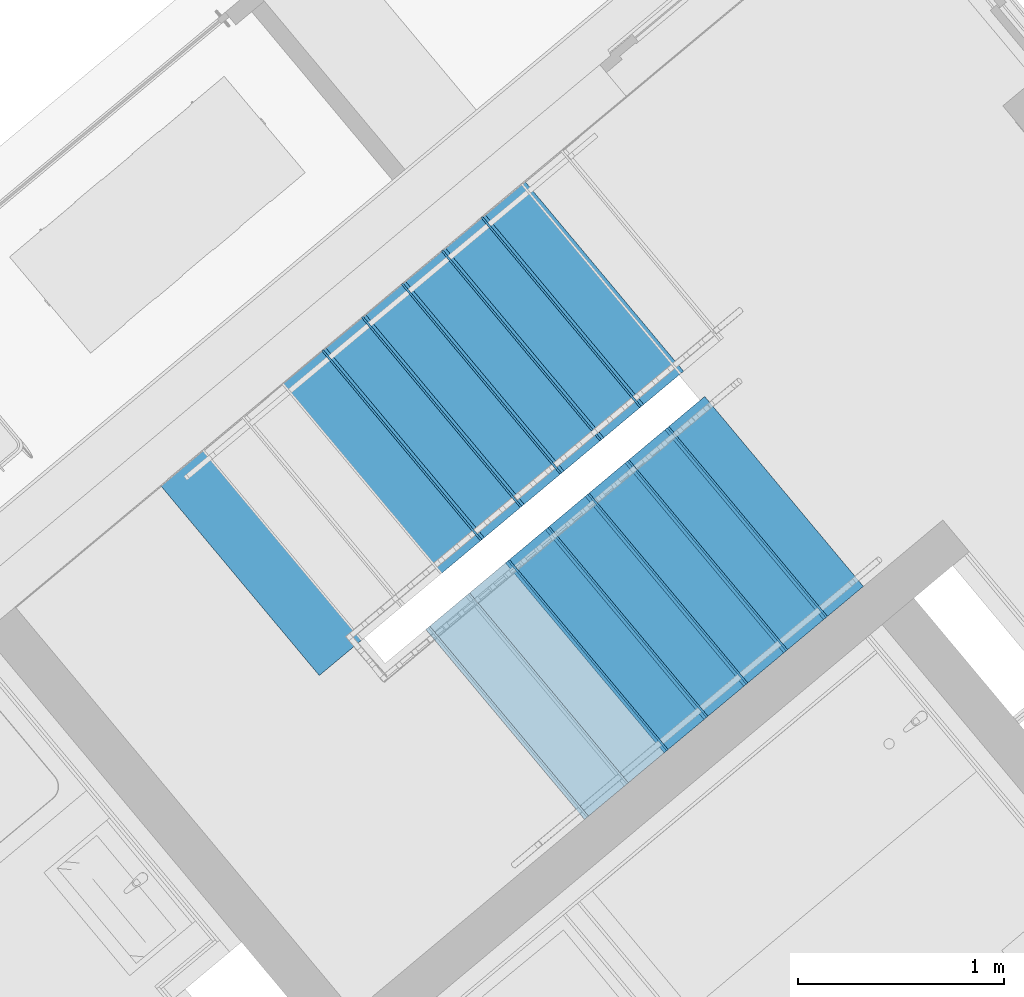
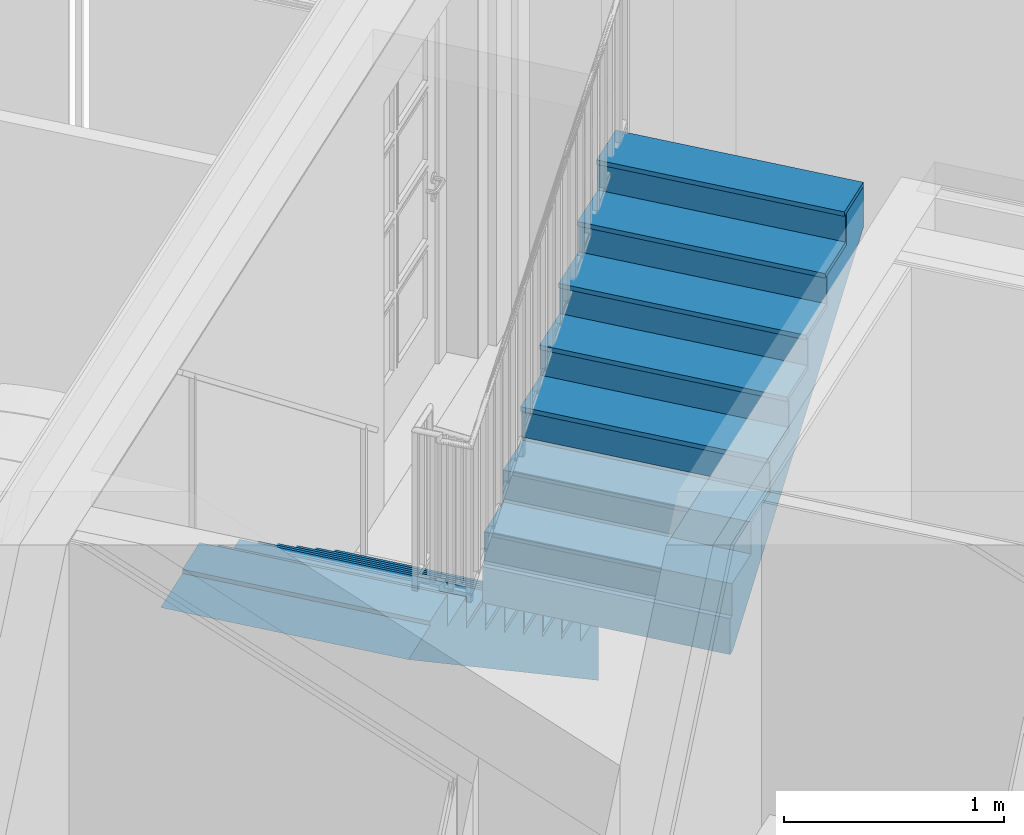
# One storey, part 35 of 75: 23 building element parts, 1 element without a shape of its own.
"""IFC4 building model written with IfcOpenShell, lengths in metres."""

from ifc_helpers import new_model, entity, si_unit, converted_unit, derived_unit, direction, frame, origin_with_axes, place, context, subcontext, project, spatial, polygons, material, type_object, element, aggregate, save


model = new_model("IFC4")

# Units and contexts
model_context = context("Model", 3, precision=1e-05, world=origin_with_axes(), true_north=direction((0.0, 1.0)))
body_context = subcontext(model_context, "Body", "Model", "MODEL_VIEW")
ifc_project = project(units=[si_unit("LENGTHUNIT", "METRE"), si_unit("AREAUNIT", "SQUARE_METRE"), si_unit("VOLUMEUNIT", "CUBIC_METRE"), converted_unit("PLANEANGLEUNIT", "DEGREE", entity("IfcPlaneAngleMeasure", 0.0174532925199), si_unit("PLANEANGLEUNIT", "RADIAN"), dimensions=[0, 0, 0, 0, 0, 0, 0]), converted_unit("TIMEUNIT", "Year", entity("IfcTimeMeasure", 31556926.0), si_unit("TIMEUNIT", "SECOND"), dimensions=[0, 0, 1, 0, 0, 0, 0]), si_unit("MASSUNIT", "GRAM", prefix="KILO"), si_unit("THERMODYNAMICTEMPERATUREUNIT", "DEGREE_CELSIUS"), si_unit("LUMINOUSINTENSITYUNIT", "LUMEN"), si_unit("ENERGYUNIT", "JOULE", prefix="MEGA"), derived_unit("THERMALCONDUCTANCEUNIT", [(si_unit("POWERUNIT", "WATT"), 1), (si_unit("LENGTHUNIT", "METRE"), -1), (si_unit("THERMODYNAMICTEMPERATUREUNIT", "KELVIN"), -1)]), derived_unit("SPECIFICHEATCAPACITYUNIT", [(si_unit("ENERGYUNIT", "JOULE"), 1), (si_unit("MASSUNIT", "GRAM", prefix="KILO"), -1), (si_unit("THERMODYNAMICTEMPERATUREUNIT", "KELVIN"), -1)]), derived_unit("MASSDENSITYUNIT", [(si_unit("MASSUNIT", "GRAM", prefix="KILO"), 1), (si_unit("VOLUMEUNIT", "CUBIC_METRE"), -1)])], contexts=[model_context])

# Site, building, storey, space
site_placement = place(None, frame((-0.00153261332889, -0.00661245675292, 0.0), z_axis=(0.0, 0.0, 1.0), x_axis=(1.0, 0.0, 0.0)))
site = spatial("IfcSite", under=ifc_project, at=site_placement, Name="Gelände", CompositionType="ELEMENT")
building_placement = place(site_placement, origin_with_axes())
building = spatial("IfcBuilding", under=site, at=building_placement, Name="Gebäude", CompositionType="ELEMENT")
storey_placement = place(building_placement, frame((0.0, 0.0, -0.22), z_axis=(0.0, 0.0, 1.0), x_axis=(1.0, 0.0, 0.0)))
storey = spatial("IfcBuildingStorey", under=building, at=storey_placement, Name="EG", CompositionType="ELEMENT", Elevation=-0.22)
space_placement = place(storey_placement, frame((0.257887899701, 22.6119986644, 0.22), z_axis=(0.0, 0.0, 1.0), x_axis=(-0.641204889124, 0.767369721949, 0.0)))
space = spatial("IfcSpace", under=storey, at=space_placement, CompositionType="ELEMENT", PredefinedType="NOTDEFINED")

# Stair, building element parts
stair_type = type_object("IfcStairType", Name="Treppentyp", PredefinedType="NOTDEFINED")
stair_placement = place(space_placement, frame((2.55982666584, -0.536119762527, -0.17), z_axis=(0.0, 0.0, 1.0), x_axis=(-0.641204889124, -0.767369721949, 0.0)))
stair = element("IfcStair", 1, at=stair_placement, inside=space, type_object=stair_type, Name="Treppe - 001", PredefinedType="NOTDEFINED")
ifc_material_1 = material(Name="Stahlbeton Decke")
building_element_part_1_placement = place(stair_placement, origin_with_axes())
building_element_part_1 = element("IfcBuildingElementPart", 2, at=building_element_part_1_placement, material=ifc_material_1, Name="Stahlbeton Decke", PredefinedType="NOTDEFINED", context=body_context, shape_type="Tessellation", body=[
    polygons([(-1.93419043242, -1.61603796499, 1.54558823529), (-1.16478618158, -2.53691636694, 1.54558823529), (-1.16478615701, -2.53691634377, 1.56852941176), (-1.93419045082, -1.61603794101, 1.56852941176), (-2.15516351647, -1.80066346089, 1.54558823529), (-1.38575924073, -2.72154184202, 1.54558823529), (-1.16478618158, -2.53691636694, 1.34302096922), (-1.10040387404, -2.48312422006, 1.28400133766), (-1.03602159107, -2.42933209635, 1.22498172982), (-0.971639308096, -2.37553997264, 1.16596212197), (-0.907257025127, -2.32174784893, 1.10694251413), (-0.842874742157, -2.26795572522, 1.04792290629), (-0.778492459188, -2.21416360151, 0.988903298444), (-0.714110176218, -2.1603714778, 0.929883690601), (-0.649727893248, -2.1065793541, 0.870864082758), (-0.585345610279, -2.05278723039, 0.811844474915), (-0.520963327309, -1.99899510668, 0.752824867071), (-0.45658104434, -1.94520298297, 0.693805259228), (-0.39219876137, -1.89141085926, 0.634785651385), (-0.3278164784, -1.83761873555, 0.575766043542), (-0.263434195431, -1.78382661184, 0.516746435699), (-0.199051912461, -1.73003448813, 0.457726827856), (-0.134669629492, -1.67624236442, 0.398707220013), (-0.0702873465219, -1.62245024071, 0.339687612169), (-0.00590506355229, -1.568658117, 0.280668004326), (0.0584772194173, -1.51486599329, 0.221648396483), (0.122859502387, -1.46107386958, 0.16262878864), (0.187241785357, -1.40728174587, 0.103609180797), (0.251624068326, -1.35348962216, 0.0445895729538), (0.316006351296, -1.29969749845, -0.0144300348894), (0.380388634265, -1.24590537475, -0.0734496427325), (0.444770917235, -1.19211325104, -0.132469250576), (0.509153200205, -1.13832112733, -0.191488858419), (0.54283953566, -1.11017581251, -0.222369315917), (0.54283953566, -1.11017581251, 0.152058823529), (0.361126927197, -1.26199874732, 0.152058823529), (0.361126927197, -1.26199874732, 0.329117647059), (0.167980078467, -1.42337511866, 0.329117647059), (0.167980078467, -1.42337511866, 0.506176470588), (-0.0251667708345, -1.58475148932, 0.506176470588), (-0.0251667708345, -1.58475148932, 0.683235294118), (-0.218313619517, -1.74612786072, 0.683235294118), (-0.218313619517, -1.74612786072, 0.860294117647), (-0.411460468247, -1.90750423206, 0.860294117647), (-0.411460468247, -1.90750423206, 1.03735294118), (-0.604607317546, -2.06888060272, 1.03735294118), (-0.604607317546, -2.06888060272, 1.21441176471), (-0.797754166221, -2.23025697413, 1.21441176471), (-0.797754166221, -2.23025697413, 1.39147058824), (-0.990901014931, -2.3916333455, 1.39147058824), (-0.990901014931, -2.3916333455, 1.56852941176), (-1.7603053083, -1.47075494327, 1.56852941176), (-1.7603053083, -1.47075494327, 1.39147058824), (-1.56715845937, -1.30937857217, 1.39147058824), (-1.56715845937, -1.30937857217, 1.21441176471), (-1.37401161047, -1.14800220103, 1.21441176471), (-1.37401161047, -1.14800220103, 1.03735294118), (-1.18086476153, -0.986625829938, 1.03735294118), (-1.18086476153, -0.986625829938, 0.860294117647), (-0.987717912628, -0.825249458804, 0.860294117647), (-0.987717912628, -0.825249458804, 0.683235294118), (-0.794571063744, -0.663873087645, 0.683235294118), (-0.794571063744, -0.663873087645, 0.506176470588), (-0.601424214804, -0.502496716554, 0.506176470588), (-0.601424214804, -0.502496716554, 0.329117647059), (-0.408277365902, -0.341120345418, 0.329117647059), (-0.408277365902, -0.341120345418, 0.152058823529), (-0.22656475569, -0.189297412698, 0.152058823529), (-0.22656475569, -0.189297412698, -0.222369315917), (-0.260251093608, -0.217442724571, -0.191488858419), (-0.324633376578, -0.27123484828, -0.132469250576), (-0.389015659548, -0.32502697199, -0.0734496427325), (-0.453397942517, -0.378819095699, -0.0144300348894), (-0.517780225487, -0.432611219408, 0.0445895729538), (-0.582162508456, -0.486403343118, 0.103609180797), (-0.646544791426, -0.540195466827, 0.16262878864), (-0.710927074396, -0.593987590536, 0.221648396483), (-0.775309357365, -0.647779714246, 0.280668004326), (-0.839691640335, -0.701571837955, 0.339687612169), (-0.904073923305, -0.755363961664, 0.398707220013), (-0.968456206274, -0.809156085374, 0.457726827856), (-1.03283848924, -0.862948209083, 0.516746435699), (-1.09722077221, -0.916740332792, 0.575766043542), (-1.16160305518, -0.970532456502, 0.634785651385), (-1.22598533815, -1.02432458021, 0.693805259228), (-1.29036762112, -1.07811670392, 0.752824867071), (-1.35474990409, -1.13190882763, 0.811844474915), (-1.41913218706, -1.18570095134, 0.870864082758), (-1.48351447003, -1.23949307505, 0.929883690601), (-1.547896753, -1.29328519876, 0.988903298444), (-1.61227903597, -1.34707732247, 1.04792290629), (-1.67666131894, -1.40086944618, 1.10694251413), (-1.74104360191, -1.45466156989, 1.16596212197), (-1.80542588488, -1.5084536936, 1.22498172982), (-1.86980816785, -1.5622458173, 1.28400133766), (-1.93419043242, -1.61603796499, 1.34302094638)], [[[1, 2, 3, 4]], [[2, 1, 5, 6]], [[7, 8, 9, 10, 11, 12, 13, 14, 15, 16, 17, 18, 19, 20, 21, 22, 23, 24, 25, 26, 27, 28, 29, 30, 31, 32, 33, 34, 35, 36, 37, 38, 39, 40, 41, 42, 43, 44, 45, 46, 47, 48, 49, 50, 51, 3, 2, 6]], [[52, 4, 3, 51]], [[1, 4, 52, 53, 54, 55, 56, 57, 58, 59, 60, 61, 62, 63, 64, 65, 66, 67, 68, 69, 70, 71, 72, 73, 74, 75, 76, 77, 78, 79, 80, 81, 82, 83, 84, 85, 86, 87, 88, 89, 90, 91, 92, 93, 94, 95, 96, 5]], [[96, 95, 8, 7, 6, 5]], [[95, 94, 9, 8]], [[94, 93, 10, 9]], [[93, 92, 11, 10]], [[92, 91, 12, 11]], [[91, 90, 13, 12]], [[90, 89, 14, 13]], [[89, 88, 15, 14]], [[88, 87, 16, 15]], [[87, 86, 17, 16]], [[86, 85, 18, 17]], [[85, 84, 19, 18]], [[84, 83, 20, 19]], [[83, 82, 21, 20]], [[82, 81, 22, 21]], [[81, 80, 23, 22]], [[80, 79, 24, 23]], [[79, 78, 25, 24]], [[78, 77, 26, 25]], [[77, 76, 27, 26]], [[76, 75, 28, 27]], [[75, 74, 29, 28]], [[74, 73, 30, 29]], [[73, 72, 31, 30]], [[72, 71, 32, 31]], [[71, 70, 33, 32]], [[70, 69, 34, 33]], [[69, 68, 35, 34]], [[36, 35, 68, 67]], [[37, 36, 67, 66]], [[65, 38, 37, 66]], [[39, 38, 65, 64]], [[63, 40, 39, 64]], [[41, 40, 63, 62]], [[61, 42, 41, 62]], [[43, 42, 61, 60]], [[59, 44, 43, 60]], [[45, 44, 59, 58]], [[57, 46, 45, 58]], [[47, 46, 57, 56]], [[55, 48, 47, 56]], [[49, 48, 55, 54]], [[53, 50, 49, 54]], [[51, 50, 53, 52]]], closed=True),
])
building_element_part_2_placement = place(stair_placement, origin_with_axes())
building_element_part_2 = element("IfcBuildingElementPart", 3, at=building_element_part_2_placement, material=ifc_material_1, Name="Stahlbeton Decke", PredefinedType="NOTDEFINED", context=body_context, shape_type="Tessellation", body=[
    polygons([(1.12362509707, -2.39695883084, 2.64145231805), (1.18800462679, -2.34316341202, 2.70047192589), (1.25238415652, -2.2893679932, 2.75949153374), (1.25238415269, -2.28936798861, 2.985), (1.0785064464, -2.4346598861, 2.985), (1.0785064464, -2.4346598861, 2.80794117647), (0.885367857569, -2.59604614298, 2.80794117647), (0.885367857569, -2.59604614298, 2.63088235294), (0.692229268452, -2.75743239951, 2.63088235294), (0.692229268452, -2.75743239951, 2.45382352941), (0.499090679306, -2.918818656, 2.45382352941), (0.499090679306, -2.918818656, 2.27676470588), (0.305952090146, -3.08020491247, 2.27676470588), (0.305952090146, -3.08020491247, 2.09970588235), (0.112813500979, -3.24159116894, 2.09970588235), (0.112813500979, -3.24159116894, 1.92264705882), (-0.0803250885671, -3.40297742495, 1.92264705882), (-0.0803250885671, -3.40297742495, 1.74558823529), (-0.0995859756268, -3.41907178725, 1.74558823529), (-0.0995859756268, -3.41907178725, 1.54558823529), (-0.0717609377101, -3.39582123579, 1.54558823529), (-0.0673962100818, -3.39217407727, 1.54958957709), (-0.0352064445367, -3.36527636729, 1.57909938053), (-0.0030166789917, -3.33837865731, 1.60860918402), (0.0291730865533, -3.31148094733, 1.6381189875), (0.0613628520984, -3.28458323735, 1.66762879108), (0.0935526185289, -3.25768552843, 1.69713859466), (0.125742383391, -3.23078781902, 1.72664839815), (0.157932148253, -3.20389010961, 1.75615820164), (0.190121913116, -3.1769924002, 1.78566800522), (0.222311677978, -3.15009469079, 1.8151778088), (0.25450144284, -3.12319698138, 1.8446876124), (0.286691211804, -3.09629927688, 1.874197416), (0.351070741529, -3.04250385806, 1.93321702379), (0.415450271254, -2.98870843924, 1.99223663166), (0.479829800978, -2.93491302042, 2.05125623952), (0.544209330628, -2.88111760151, 2.11027584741), (0.608588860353, -2.82732218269, 2.16929545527), (0.672968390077, -2.77352676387, 2.22831506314), (0.73734791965, -2.71973134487, 2.28733467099), (0.801727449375, -2.66593592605, 2.34635427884), (0.8661069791, -2.61214050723, 2.40537388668), (0.930486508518, -2.55834508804, 2.46439349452), (0.994866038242, -2.50454966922, 2.52341310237), (1.05924556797, -2.4507542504, 2.58243271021), (0.418553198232, -1.42232438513, 2.70047192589), (0.354173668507, -1.47611980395, 2.64145231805), (0.482932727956, -1.36852896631, 2.75949153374), (0.482932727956, -1.36852896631, 2.985), (0.309055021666, -1.51382086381, 2.985), (0.309055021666, -1.51382086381, 2.80794117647), (0.115916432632, -1.67520712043, 2.80794117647), (0.115916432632, -1.67520712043, 2.63088235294), (-0.0772221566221, -1.8365933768, 2.63088235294), (-0.0772221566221, -1.8365933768, 2.45382352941), (-0.270360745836, -1.99797963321, 2.45382352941), (-0.270360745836, -1.99797963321, 2.27676470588), (-0.463499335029, -2.15936588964, 2.27676470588), (-0.463499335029, -2.15936588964, 2.09970588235), (-0.656637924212, -2.32075214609, 2.09970588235), (-0.656637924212, -2.32075214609, 1.92264705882), (-0.849776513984, -2.48213840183, 1.92264705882), (-0.849776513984, -2.48213840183, 1.74558823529), (-0.86903741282, -2.49823277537, 1.74558823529), (-0.869037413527, -2.49823277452, 1.54558823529), (-0.841212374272, -2.47498222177, 1.54558823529), (-0.815129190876, -2.50619720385, 1.54558823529), (-0.482569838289, -2.90418674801, 1.54558823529), (-0.430403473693, -2.96661670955, 1.54558823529), (-0.0978441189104, -3.36460625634, 1.54558823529), (-0.227569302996, -3.13506661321, 1.57909938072), (-0.163189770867, -3.08127119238, 1.63811898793), (-0.0988102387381, -3.02747577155, 1.69713859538), (-0.0344307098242, -2.97368035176, 1.75615820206), (0.0299488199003, -2.91988493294, 1.81517780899), (0.0943283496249, -2.86608951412, 1.87419741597), (-0.418380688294, -2.12166482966, 1.93321702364), (-0.290397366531, -2.40566999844, 1.8741974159), (-0.482760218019, -2.17546024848, 1.87419741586), (-0.35400115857, -2.06786941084, 1.99223663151), (-0.289621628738, -2.01407399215, 2.0512562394), (-0.225242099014, -1.96027857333, 2.11027584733), (-0.160862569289, -1.90648315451, 2.16929545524), (-0.0964830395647, -1.85268773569, 2.22831506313), (-0.0321035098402, -1.79889231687, 2.28733467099), (0.0322760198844, -1.74509689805, 2.34635427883), (0.0966555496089, -1.69130147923, 2.40537388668), (0.161035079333, -1.63750606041, 2.46439349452), (0.225414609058, -1.58371064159, 2.52341310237), (0.289794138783, -1.52991522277, 2.58243271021), (-0.804657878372, -2.44443735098, 1.57909938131), (-0.836847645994, -2.4713350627, 1.54958957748), (-0.514949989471, -2.20235795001, 1.84468761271), (-0.547139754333, -2.22925565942, 1.81517780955), (-0.579329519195, -2.25615336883, 1.78566800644), (-0.611519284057, -2.28305107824, 1.75615820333), (-0.64370904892, -2.30994878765, 1.72664840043), (-0.675898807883, -2.33684650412, 1.69713859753), (-0.708088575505, -2.36374421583, 1.66762879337), (-0.740278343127, -2.39064192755, 1.6381189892), (-0.77246811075, -2.41753963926, 1.60860918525), (-0.612295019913, -2.67464710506, 1.57909938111), (-0.452121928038, -2.93175456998, 1.54958957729), (-0.387742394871, -2.87795914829, 1.60860918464), (-0.323362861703, -2.82416372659, 1.66762879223), (-0.258983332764, -2.77036830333, 1.72664839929), (-0.19460380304, -2.71657288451, 1.78566800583), (-0.130224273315, -2.66277746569, 1.84468761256), (-0.354776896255, -2.45946541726, 1.81517780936), (-0.41915642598, -2.51326083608, 1.75615820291), (-0.483535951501, -2.56705625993, 1.69713859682), (-0.547915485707, -2.62085168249, 1.63811898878)], [[[1, 2, 3, 4, 5, 6, 7, 8, 9, 10, 11, 12, 13, 14, 15, 16, 17, 18, 19, 20, 21, 22, 23, 24, 25, 26, 27, 28, 29, 30, 31, 32, 33, 34, 35, 36, 37, 38, 39, 40, 41, 42, 43, 44, 45]], [[46, 2, 1, 47]], [[48, 3, 2, 46]], [[4, 3, 48, 49]], [[4, 49, 50, 5]], [[50, 51, 6, 5]], [[52, 7, 6, 51]], [[52, 53, 8, 7]], [[54, 9, 8, 53]], [[54, 55, 10, 9]], [[56, 11, 10, 55]], [[56, 57, 12, 11]], [[58, 13, 12, 57]], [[58, 59, 14, 13]], [[60, 15, 14, 59]], [[60, 61, 16, 15]], [[62, 17, 16, 61]], [[62, 63, 18, 17]], [[63, 64, 19, 18]], [[65, 20, 19, 64]], [[21, 20, 65, 66, 67, 68, 69, 70]], [[70, 22, 21]], [[71, 23, 22]], [[71, 24, 23]], [[72, 25, 24]], [[72, 26, 25]], [[73, 27, 26]], [[73, 28, 27]], [[74, 29, 28]], [[74, 30, 29]], [[75, 31, 30]], [[75, 32, 31]], [[76, 33, 32]], [[77, 34, 33, 76, 78, 79]], [[80, 35, 34, 77]], [[81, 36, 35, 80]], [[82, 37, 36, 81]], [[83, 38, 37, 82]], [[84, 39, 38, 83]], [[85, 40, 39, 84]], [[86, 41, 40, 85]], [[87, 42, 41, 86]], [[88, 43, 42, 87]], [[89, 44, 43, 88]], [[90, 45, 44, 89]], [[47, 1, 45, 90]], [[91, 92, 66, 65, 64, 63, 62, 61, 60, 59, 58, 57, 56, 55, 54, 53, 52, 51, 50, 49, 48, 46, 47, 90, 89, 88, 87, 86, 85, 84, 83, 82, 81, 80, 77, 79, 93, 94, 95, 96, 97, 98, 99, 100, 101]], [[67, 66, 92]], [[67, 92, 102, 103, 68]], [[69, 68, 103]], [[103, 71, 22, 70, 69]], [[104, 72, 24, 71]], [[105, 73, 26, 72]], [[106, 74, 28, 73]], [[74, 107, 75, 30]], [[108, 76, 32, 75]], [[108, 78, 76]], [[78, 93, 79]], [[102, 92, 91]], [[109, 94, 93]], [[109, 95, 94]], [[110, 96, 95]], [[110, 97, 96]], [[111, 98, 97]], [[111, 99, 98]], [[112, 100, 99]], [[112, 101, 100]], [[102, 91, 101]], [[103, 102, 71]], [[72, 104, 112]], [[71, 102, 104]], [[73, 105, 111]], [[112, 105, 72]], [[74, 106, 110]], [[73, 111, 106]], [[74, 110, 107]], [[75, 107, 109]], [[109, 108, 75]], [[109, 93, 78, 108]], [[95, 109, 107, 110]], [[111, 97, 110, 106]], [[99, 111, 105, 112]], [[102, 101, 112, 104]]], closed=True),
])
ifc_material_2 = material(Name="BEKLEIDUNG")
building_element_part_3_placement = place(stair_placement, origin_with_axes())
building_element_part_3 = element("IfcBuildingElementPart", 4, at=building_element_part_3_placement, material=ifc_material_2, Name="BEKLEIDUNG", PredefinedType="NOTDEFINED", context=body_context, shape_type="Tessellation", body=[
    polygons([(-0.593673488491, -0.49602089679, 0.506176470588), (-0.601347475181, -0.502432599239, 0.506176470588), (0.168056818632, -1.42331100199, 0.506176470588), (0.175730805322, -1.41689929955, 0.506176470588), (-0.593673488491, -0.49602089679, 0.354117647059), (-0.601347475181, -0.502432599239, 0.354117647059), (0.168056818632, -1.42331100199, 0.354117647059), (0.175730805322, -1.41689929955, 0.354117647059)], [[[1, 2, 3, 4]], [[1, 5, 6, 2]], [[2, 6, 7, 3]], [[4, 3, 7, 8]], [[5, 1, 4, 8]], [[6, 5, 8, 7]]], closed=True),
])
building_element_part_4_placement = place(stair_placement, origin_with_axes())
building_element_part_4 = element("IfcBuildingElementPart", 5, at=building_element_part_4_placement, material=ifc_material_2, Name="BEKLEIDUNG", PredefinedType="NOTDEFINED", context=body_context, shape_type="Tessellation", body=[
    polygons([(-0.7868203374, -0.657397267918, 0.683235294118), (-0.794494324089, -0.663808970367, 0.683235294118), (-0.0250900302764, -1.58468737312, 0.683235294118), (-0.0174160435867, -1.57827567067, 0.683235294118), (-0.7868203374, -0.657397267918, 0.531176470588), (-0.794494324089, -0.663808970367, 0.531176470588), (-0.0250900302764, -1.58468737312, 0.531176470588), (-0.0174160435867, -1.57827567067, 0.531176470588)], [[[1, 2, 3, 4]], [[1, 5, 6, 2]], [[2, 6, 7, 3]], [[4, 3, 7, 8]], [[5, 1, 4, 8]], [[6, 5, 8, 7]]], closed=True),
])
building_element_part_5_placement = place(stair_placement, origin_with_axes())
building_element_part_5 = element("IfcBuildingElementPart", 6, at=building_element_part_5_placement, material=ifc_material_2, Name="BEKLEIDUNG", PredefinedType="NOTDEFINED", context=body_context, shape_type="Tessellation", body=[
    polygons([(-0.979967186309, -0.818773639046, 0.860294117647), (-0.987641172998, -0.825185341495, 0.860294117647), (-0.218236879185, -1.74606374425, 0.860294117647), (-0.210562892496, -1.7396520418, 0.860294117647), (-0.979967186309, -0.818773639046, 0.708235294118), (-0.987641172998, -0.825185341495, 0.708235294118), (-0.218236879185, -1.74606374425, 0.708235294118), (-0.210562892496, -1.7396520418, 0.708235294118)], [[[1, 2, 3, 4]], [[1, 5, 6, 2]], [[2, 6, 7, 3]], [[4, 3, 7, 8]], [[5, 1, 4, 8]], [[6, 5, 8, 7]]], closed=True),
])
building_element_part_6_placement = place(stair_placement, origin_with_axes())
building_element_part_6 = element("IfcBuildingElementPart", 7, at=building_element_part_6_placement, material=ifc_material_2, Name="BEKLEIDUNG", PredefinedType="NOTDEFINED", context=body_context, shape_type="Tessellation", body=[
    polygons([(-1.17311403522, -0.980150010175, 1.03735294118), (-1.18078802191, -0.986561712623, 1.03735294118), (-0.411383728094, -1.90744011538, 1.03735294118), (-0.403709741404, -1.90102841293, 1.03735294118), (-1.17311403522, -0.980150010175, 0.885294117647), (-1.18078802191, -0.986561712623, 0.885294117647), (-0.411383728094, -1.90744011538, 0.885294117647), (-0.403709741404, -1.90102841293, 0.885294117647)], [[[1, 2, 3, 4]], [[1, 5, 6, 2]], [[2, 6, 7, 3]], [[4, 3, 7, 8]], [[5, 1, 4, 8]], [[6, 5, 8, 7]]], closed=True),
])
building_element_part_7_placement = place(stair_placement, origin_with_axes())
building_element_part_7 = element("IfcBuildingElementPart", 8, at=building_element_part_7_placement, material=ifc_material_2, Name="BEKLEIDUNG", PredefinedType="NOTDEFINED", context=body_context, shape_type="Tessellation", body=[
    polygons([(-1.36626088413, -1.1415263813, 1.21441176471), (-1.37393487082, -1.14793808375, 1.21441176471), (-0.604530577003, -2.06881648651, 1.21441176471), (-0.596856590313, -2.06240478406, 1.21441176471), (-1.36626088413, -1.1415263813, 1.06235294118), (-1.37393487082, -1.14793808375, 1.06235294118), (-0.604530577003, -2.06881648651, 1.06235294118), (-0.596856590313, -2.06240478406, 1.06235294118)], [[[1, 2, 3, 4]], [[1, 5, 6, 2]], [[2, 6, 7, 3]], [[4, 3, 7, 8]], [[5, 1, 4, 8]], [[6, 5, 8, 7]]], closed=True),
])
building_element_part_8_placement = place(stair_placement, origin_with_axes())
building_element_part_8 = element("IfcBuildingElementPart", 9, at=building_element_part_8_placement, material=ifc_material_2, Name="BEKLEIDUNG", PredefinedType="NOTDEFINED", context=body_context, shape_type="Tessellation", body=[
    polygons([(0.298201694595, -3.0866811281, 2.27676470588), (0.305875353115, -3.08026903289, 2.27676470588), (-0.463576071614, -2.1594300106, 2.27676470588), (-0.471249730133, -2.1658421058, 2.27676470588), (0.298201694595, -3.0866811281, 2.12470588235), (0.305875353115, -3.08026903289, 2.12470588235), (-0.463576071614, -2.1594300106, 2.12470588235), (-0.471249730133, -2.1658421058, 2.12470588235)], [[[1, 2, 3, 4]], [[1, 5, 6, 2]], [[2, 6, 7, 3]], [[4, 3, 7, 8]], [[5, 1, 4, 8]], [[6, 5, 8, 7]]], closed=True),
])
building_element_part_9_placement = place(stair_placement, origin_with_axes())
building_element_part_9 = element("IfcBuildingElementPart", 10, at=building_element_part_9_placement, material=ifc_material_2, Name="BEKLEIDUNG", PredefinedType="NOTDEFINED", context=body_context, shape_type="Tessellation", body=[
    polygons([(0.491340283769, -2.92529487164, 2.45382352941), (0.499013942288, -2.91888277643, 2.45382352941), (-0.270437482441, -1.99804375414, 2.45382352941), (-0.27811114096, -2.00445584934, 2.45382352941), (0.491340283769, -2.92529487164, 2.30176470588), (0.499013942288, -2.91888277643, 2.30176470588), (-0.270437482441, -1.99804375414, 2.30176470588), (-0.27811114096, -2.00445584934, 2.30176470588)], [[[1, 2, 3, 4]], [[1, 5, 6, 2]], [[2, 6, 7, 3]], [[4, 3, 7, 8]], [[5, 1, 4, 8]], [[6, 5, 8, 7]]], closed=True),
])
building_element_part_10_placement = place(stair_placement, origin_with_axes())
building_element_part_10 = element("IfcBuildingElementPart", 11, at=building_element_part_10_placement, material=ifc_material_2, Name="BEKLEIDUNG", PredefinedType="NOTDEFINED", context=body_context, shape_type="Tessellation", body=[
    polygons([(0.684478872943, -2.76390861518, 2.63088235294), (0.692152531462, -2.75749651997, 2.63088235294), (-0.0772988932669, -1.83665749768, 2.63088235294), (-0.084972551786, -1.84306959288, 2.63088235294), (0.684478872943, -2.76390861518, 2.47882352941), (0.692152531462, -2.75749651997, 2.47882352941), (-0.0772988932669, -1.83665749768, 2.47882352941), (-0.084972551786, -1.84306959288, 2.47882352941)], [[[1, 2, 3, 4]], [[1, 5, 6, 2]], [[2, 6, 7, 3]], [[4, 3, 7, 8]], [[5, 1, 4, 8]], [[6, 5, 8, 7]]], closed=True),
])
building_element_part_11_placement = place(stair_placement, origin_with_axes())
building_element_part_11 = element("IfcBuildingElementPart", 12, at=building_element_part_11_placement, material=ifc_material_2, Name="BEKLEIDUNG", PredefinedType="NOTDEFINED", context=body_context, shape_type="Tessellation", body=[
    polygons([(0.877617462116, -2.60252235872, 2.80794117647), (0.885291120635, -2.59611026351, 2.80794117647), (0.115839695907, -1.67527124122, 2.80794117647), (0.108166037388, -1.68168333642, 2.80794117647), (0.877617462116, -2.60252235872, 2.65588235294), (0.885291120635, -2.59611026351, 2.65588235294), (0.115839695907, -1.67527124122, 2.65588235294), (0.108166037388, -1.68168333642, 2.65588235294)], [[[1, 2, 3, 4]], [[1, 5, 6, 2]], [[2, 6, 7, 3]], [[4, 3, 7, 8]], [[5, 1, 4, 8]], [[6, 5, 8, 7]]], closed=True),
])
building_element_part_12_placement = place(stair_placement, origin_with_axes())
building_element_part_12 = element("IfcBuildingElementPart", 13, at=building_element_part_12_placement, material=ifc_material_2, Name="BEKLEIDUNG", PredefinedType="NOTDEFINED", context=body_context, shape_type="Tessellation", body=[
    polygons([(1.07075605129, -2.44113610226, 2.985), (1.07842970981, -2.43472400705, 2.985), (0.30897828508, -1.51388498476, 2.985), (0.301304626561, -1.52029707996, 2.985), (1.07075605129, -2.44113610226, 2.83294117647), (1.07842970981, -2.43472400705, 2.83294117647), (0.30897828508, -1.51388498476, 2.83294117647), (0.301304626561, -1.52029707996, 2.83294117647)], [[[1, 2, 3, 4]], [[1, 5, 6, 2]], [[2, 6, 7, 3]], [[4, 3, 7, 8]], [[5, 1, 4, 8]], [[6, 5, 8, 7]]], closed=True),
])
building_element_part_13_placement = place(stair_placement, origin_with_axes())
building_element_part_13 = element("IfcBuildingElementPart", 14, at=building_element_part_13_placement, material=ifc_material_2, Name="BEKLEIDUNG", PredefinedType="NOTDEFINED", context=body_context, shape_type="Tessellation", body=[
    polygons([(0.380388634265, -1.24590537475, 0.329117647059), (-0.389015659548, -0.32502697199, 0.329117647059), (-0.389015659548, -0.32502697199, 0.354117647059), (0.380388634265, -1.24590537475, 0.354117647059), (0.168056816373, -1.42331100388, 0.329117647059), (-0.601347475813, -0.502432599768, 0.329117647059), (-0.601347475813, -0.502432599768, 0.354117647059), (0.168056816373, -1.42331100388, 0.354117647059)], [[[1, 2, 3, 4]], [[1, 5, 6, 2]], [[2, 6, 7, 3]], [[4, 3, 7, 8]], [[5, 1, 4, 8]], [[6, 5, 8, 7]]], closed=True),
])
building_element_part_14_placement = place(stair_placement, origin_with_axes())
building_element_part_14 = element("IfcBuildingElementPart", 15, at=building_element_part_14_placement, material=ifc_material_2, Name="BEKLEIDUNG", PredefinedType="NOTDEFINED", context=body_context, shape_type="Tessellation", body=[
    polygons([(0.187241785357, -1.40728174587, 0.506176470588), (-0.582162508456, -0.486403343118, 0.506176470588), (-0.582162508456, -0.486403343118, 0.531176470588), (0.187241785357, -1.40728174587, 0.531176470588), (-0.0250900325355, -1.58468737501, 0.506176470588), (-0.794494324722, -0.663808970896, 0.506176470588), (-0.794494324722, -0.663808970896, 0.531176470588), (-0.0250900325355, -1.58468737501, 0.531176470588)], [[[1, 2, 3, 4]], [[1, 5, 6, 2]], [[2, 6, 7, 3]], [[4, 3, 7, 8]], [[5, 1, 4, 8]], [[6, 5, 8, 7]]], closed=True),
])
building_element_part_15_placement = place(stair_placement, origin_with_axes())
building_element_part_15 = element("IfcBuildingElementPart", 16, at=building_element_part_15_placement, material=ifc_material_2, Name="BEKLEIDUNG", PredefinedType="NOTDEFINED", context=body_context, shape_type="Tessellation", body=[
    polygons([(-0.00590506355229, -1.568658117, 0.683235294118), (-0.775309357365, -0.647779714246, 0.683235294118), (-0.775309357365, -0.647779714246, 0.708235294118), (-0.00590506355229, -1.568658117, 0.708235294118), (-0.218236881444, -1.74606374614, 0.683235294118), (-0.987641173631, -0.825185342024, 0.683235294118), (-0.987641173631, -0.825185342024, 0.708235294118), (-0.218236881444, -1.74606374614, 0.708235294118)], [[[1, 2, 3, 4]], [[1, 5, 6, 2]], [[2, 6, 7, 3]], [[4, 3, 7, 8]], [[5, 1, 4, 8]], [[6, 5, 8, 7]]], closed=True),
])
building_element_part_16_placement = place(stair_placement, origin_with_axes())
building_element_part_16 = element("IfcBuildingElementPart", 17, at=building_element_part_16_placement, material=ifc_material_2, Name="BEKLEIDUNG", PredefinedType="NOTDEFINED", context=body_context, shape_type="Tessellation", body=[
    polygons([(-0.199051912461, -1.73003448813, 0.860294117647), (-0.968456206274, -0.809156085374, 0.860294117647), (-0.968456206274, -0.809156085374, 0.885294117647), (-0.199051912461, -1.73003448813, 0.885294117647), (-0.411383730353, -1.90744011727, 0.860294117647), (-1.18078802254, -0.986561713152, 0.860294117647), (-1.18078802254, -0.986561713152, 0.885294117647), (-0.411383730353, -1.90744011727, 0.885294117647)], [[[1, 2, 3, 4]], [[1, 5, 6, 2]], [[2, 6, 7, 3]], [[4, 3, 7, 8]], [[5, 1, 4, 8]], [[6, 5, 8, 7]]], closed=True),
])
building_element_part_17_placement = place(stair_placement, origin_with_axes())
building_element_part_17 = element("IfcBuildingElementPart", 18, at=building_element_part_17_placement, material=ifc_material_2, Name="BEKLEIDUNG", PredefinedType="NOTDEFINED", context=body_context, shape_type="Tessellation", body=[
    polygons([(-0.39219876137, -1.89141085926, 1.03735294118), (-1.16160305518, -0.970532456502, 1.03735294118), (-1.16160305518, -0.970532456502, 1.06235294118), (-0.39219876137, -1.89141085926, 1.06235294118), (-0.604530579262, -2.06881648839, 1.03735294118), (-1.37393487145, -1.14793808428, 1.03735294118), (-1.37393487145, -1.14793808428, 1.06235294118), (-0.604530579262, -2.06881648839, 1.06235294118)], [[[1, 2, 3, 4]], [[1, 5, 6, 2]], [[2, 6, 7, 3]], [[4, 3, 7, 8]], [[5, 1, 4, 8]], [[6, 5, 8, 7]]], closed=True),
])
building_element_part_18_placement = place(stair_placement, origin_with_axes())
building_element_part_18 = element("IfcBuildingElementPart", 19, at=building_element_part_18_placement, material=ifc_material_2, Name="BEKLEIDUNG", PredefinedType="NOTDEFINED", context=body_context, shape_type="Tessellation", body=[
    polygons([(-0.585345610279, -2.05278723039, 1.21441176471), (-1.35474990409, -1.13190882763, 1.21441176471), (-1.35474990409, -1.13190882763, 1.23941176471), (-0.585345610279, -2.05278723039, 1.23941176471), (-0.797677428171, -2.23019285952, 1.21441176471), (-1.56708172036, -1.30931445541, 1.21441176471), (-1.56708172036, -1.30931445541, 1.23941176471), (-0.797677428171, -2.23019285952, 1.23941176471)], [[[1, 2, 3, 4]], [[1, 5, 6, 2]], [[2, 6, 7, 3]], [[4, 3, 7, 8]], [[5, 1, 4, 8]], [[6, 5, 8, 7]]], closed=True),
])
building_element_part_19_placement = place(stair_placement, origin_with_axes())
building_element_part_19 = element("IfcBuildingElementPart", 20, at=building_element_part_19_placement, material=ifc_material_2, Name="BEKLEIDUNG", PredefinedType="NOTDEFINED", context=body_context, shape_type="Tessellation", body=[
    polygons([(-0.482760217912, -2.17546024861, 2.27676470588), (0.286691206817, -3.09629927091, 2.27676470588), (0.286691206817, -3.09629927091, 2.30176470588), (-0.482760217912, -2.17546024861, 2.30176470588), (-0.270437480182, -1.99804375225, 2.27676470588), (0.499013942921, -2.9188827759, 2.27676470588), (0.499013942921, -2.9188827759, 2.30176470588), (-0.270437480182, -1.99804375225, 2.30176470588)], [[[1, 2, 3, 4]], [[1, 5, 6, 2]], [[2, 6, 7, 3]], [[4, 3, 7, 8]], [[5, 1, 4, 8]], [[6, 5, 8, 7]]], closed=True),
])
building_element_part_20_placement = place(stair_placement, origin_with_axes())
building_element_part_20 = element("IfcBuildingElementPart", 21, at=building_element_part_20_placement, material=ifc_material_2, Name="BEKLEIDUNG", PredefinedType="NOTDEFINED", context=body_context, shape_type="Tessellation", body=[
    polygons([(-0.289621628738, -2.01407399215, 2.45382352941), (0.47982979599, -2.93491301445, 2.45382352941), (0.47982979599, -2.93491301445, 2.47882352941), (-0.289621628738, -2.01407399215, 2.47882352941), (-0.0772988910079, -1.83665749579, 2.45382352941), (0.692152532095, -2.75749651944, 2.45382352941), (0.692152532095, -2.75749651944, 2.47882352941), (-0.0772988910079, -1.83665749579, 2.47882352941)], [[[1, 2, 3, 4]], [[1, 5, 6, 2]], [[2, 6, 7, 3]], [[4, 3, 7, 8]], [[5, 1, 4, 8]], [[6, 5, 8, 7]]], closed=True),
])
building_element_part_21_placement = place(stair_placement, origin_with_axes())
building_element_part_21 = element("IfcBuildingElementPart", 22, at=building_element_part_21_placement, material=ifc_material_2, Name="BEKLEIDUNG", PredefinedType="NOTDEFINED", context=body_context, shape_type="Tessellation", body=[
    polygons([(-0.0964830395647, -1.85268773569, 2.63088235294), (0.672968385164, -2.77352675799, 2.63088235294), (0.672968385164, -2.77352675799, 2.65588235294), (-0.0964830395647, -1.85268773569, 2.65588235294), (0.115839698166, -1.67527123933, 2.63088235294), (0.885291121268, -2.59611026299, 2.63088235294), (0.885291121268, -2.59611026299, 2.65588235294), (0.115839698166, -1.67527123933, 2.65588235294)], [[[1, 2, 3, 4]], [[1, 5, 6, 2]], [[2, 6, 7, 3]], [[4, 3, 7, 8]], [[5, 1, 4, 8]], [[6, 5, 8, 7]]], closed=True),
])
building_element_part_22_placement = place(stair_placement, origin_with_axes())
building_element_part_22 = element("IfcBuildingElementPart", 23, at=building_element_part_22_placement, material=ifc_material_2, Name="BEKLEIDUNG", PredefinedType="NOTDEFINED", context=body_context, shape_type="Tessellation", body=[
    polygons([(0.0966555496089, -1.69130147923, 2.80794117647), (0.866106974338, -2.61214050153, 2.80794117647), (0.866106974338, -2.61214050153, 2.83294117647), (0.0966555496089, -1.69130147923, 2.83294117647), (0.308978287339, -1.51388498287, 2.80794117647), (1.07842971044, -2.43472400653, 2.80794117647), (1.07842971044, -2.43472400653, 2.83294117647), (0.308978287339, -1.51388498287, 2.83294117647)], [[[1, 2, 3, 4]], [[1, 5, 6, 2]], [[2, 6, 7, 3]], [[4, 3, 7, 8]], [[5, 1, 4, 8]], [[6, 5, 8, 7]]], closed=True),
])
building_element_part_23_placement = place(stair_placement, origin_with_axes())
building_element_part_23 = element("IfcBuildingElementPart", 24, at=building_element_part_23_placement, material=ifc_material_2, Name="BEKLEIDUNG", PredefinedType="NOTDEFINED", context=body_context, shape_type="Tessellation", body=[
    polygons([(0.289794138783, -1.52991522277, 2.985), (1.05924556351, -2.45075424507, 2.985), (1.05924556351, -2.45075424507, 3.01), (0.289794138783, -1.52991522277, 3.01), (0.482932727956, -1.36852896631, 2.985), (1.25238415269, -2.28936798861, 2.985), (1.25238415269, -2.28936798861, 3.01), (0.482932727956, -1.36852896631, 3.01)], [[[1, 2, 3, 4]], [[1, 5, 6, 2]], [[2, 6, 7, 3]], [[4, 3, 7, 8]], [[5, 1, 4, 8]], [[6, 5, 8, 7]]], closed=True),
])
aggregate(stair, [building_element_part_1, building_element_part_2, building_element_part_3, building_element_part_4, building_element_part_5, building_element_part_6, building_element_part_7, building_element_part_8, building_element_part_9, building_element_part_10, building_element_part_11, building_element_part_12, building_element_part_13, building_element_part_14, building_element_part_15, building_element_part_16, building_element_part_17, building_element_part_18, building_element_part_19, building_element_part_20, building_element_part_21, building_element_part_22, building_element_part_23])

save(model, "model.ifc")
